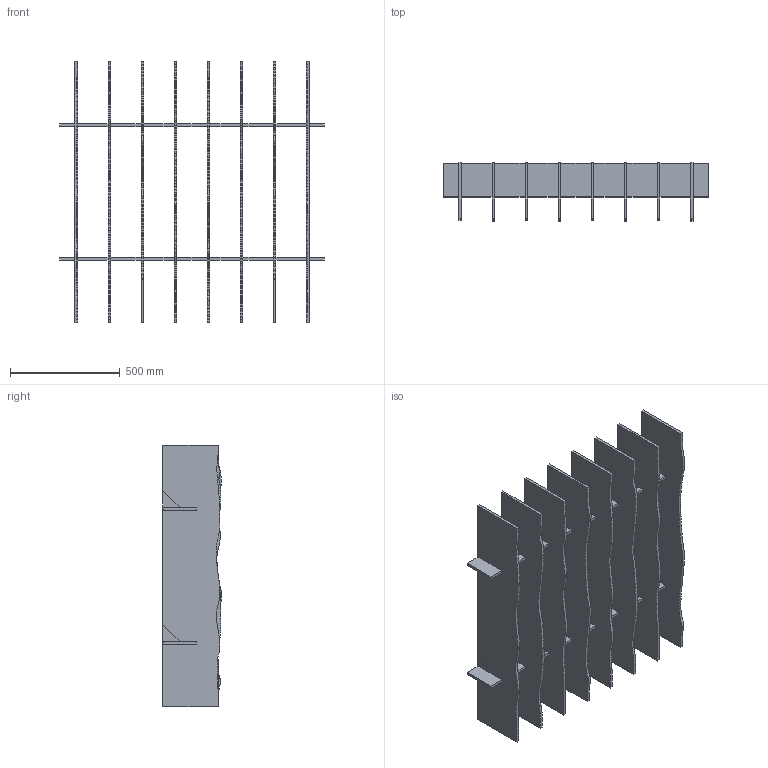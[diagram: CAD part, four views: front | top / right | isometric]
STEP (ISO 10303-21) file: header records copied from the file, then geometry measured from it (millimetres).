
FILE_DESCRIPTION(/* description */ (''),/* implementation_level */ '2;1');
FILE_NAME(/* name */ 'Y:\Design and Engineering\MaterialLogiq\CAD ASSETS\MASTER\BAFFLE\WEB ASSETS\PET BAFFLE_8FIN_4x4_10_JITTER.stp',/* time_stamp */ '2023-11-16T09:28:35-06:00',/* author */ ('Grant Baker'),/* organization */ (''),/* preprocessor_version */ 'ST-DEVELOPER v19',/* originating_system */ 'Autodesk Inventor 2023',/* authorisation */ '');
FILE_SCHEMA (('AUTOMOTIVE_DESIGN { 1 0 10303 214 3 1 1 }'));
Length unit declared in the file: inch
Products named in the file (6): PET BAFFLE_PARAMETRIC_11.02.2023; PET BAFFLE_BEAM; PET BAFFLE_48in_FIN_JITTER-1; PET BAFFLE_48in_FIN_JITTER-3; PET BAFFLE_48in_FIN_JITTER-2; PET BAFFLE_48in_FIN_JITTER-4
Assembly tree (10 placements, depth 2):
  PET BAFFLE_PARAMETRIC_11.02.2023
    PET BAFFLE_BEAM  x2
    PET BAFFLE_48in_FIN_JITTER-1  x2
    PET BAFFLE_48in_FIN_JITTER-3  x2
    PET BAFFLE_48in_FIN_JITTER-2  x2
    PET BAFFLE_48in_FIN_JITTER-4  x2
Bounding box: 1206.5 x 267.41 x 1193.8 mm (x, y, z)
Volume: 33851621.1 mm3; surface area: 5990331.9 mm2
Topology: 28 solids, 28 shells, 1626 faces, 4710 edges, 3140 vertices
Faces by surface type: plane 1624, cylinder 2
Entity records: 26445 total; most frequent: CARTESIAN_POINT 4754, ORIENTED_EDGE 4710, DIRECTION 4015, EDGE_CURVE 2355, LINE 2353, VECTOR 2353, VERTEX_POINT 1570, AXIS2_PLACEMENT_3D 831
